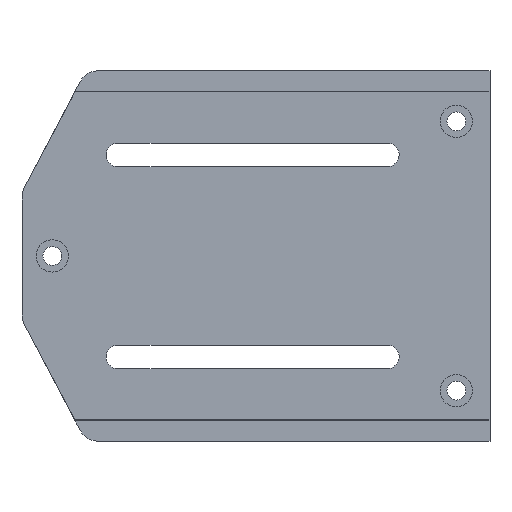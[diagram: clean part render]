
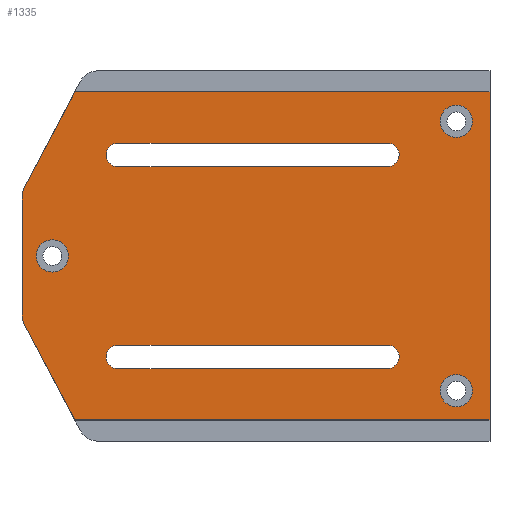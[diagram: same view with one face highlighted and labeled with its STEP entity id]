
A CAD part, top view. The second image highlights one B-rep face of the part: STEP entity #1335.
In plain terms, the highlighted planar face has unit normal (0, 0, 1).
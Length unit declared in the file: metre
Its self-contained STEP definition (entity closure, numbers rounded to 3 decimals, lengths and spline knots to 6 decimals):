
#44=CIRCLE('',#1428,0.00175);
#45=CIRCLE('',#1429,0.00175);
#46=CIRCLE('',#1430,0.0024);
#47=CIRCLE('',#1431,0.0024);
#48=CIRCLE('',#1432,0.0024);
#49=CIRCLE('',#1433,0.003);
#50=CIRCLE('',#1434,0.003);
#51=CIRCLE('',#1435,0.00175);
#52=CIRCLE('',#1436,0.00175);
#88=ORIENTED_EDGE('',*,*,#472,.T.);
#89=ORIENTED_EDGE('',*,*,#473,.F.);
#90=ORIENTED_EDGE('',*,*,#474,.F.);
#91=ORIENTED_EDGE('',*,*,#475,.F.);
#92=ORIENTED_EDGE('',*,*,#476,.T.);
#93=ORIENTED_EDGE('',*,*,#477,.T.);
#94=ORIENTED_EDGE('',*,*,#478,.T.);
#95=ORIENTED_EDGE('',*,*,#479,.T.);
#96=ORIENTED_EDGE('',*,*,#480,.F.);
#97=ORIENTED_EDGE('',*,*,#481,.T.);
#98=ORIENTED_EDGE('',*,*,#482,.T.);
#99=ORIENTED_EDGE('',*,*,#483,.T.);
#100=ORIENTED_EDGE('',*,*,#484,.T.);
#101=ORIENTED_EDGE('',*,*,#485,.T.);
#102=ORIENTED_EDGE('',*,*,#486,.T.);
#103=ORIENTED_EDGE('',*,*,#487,.T.);
#104=ORIENTED_EDGE('',*,*,#488,.F.);
#105=ORIENTED_EDGE('',*,*,#489,.F.);
#106=ORIENTED_EDGE('',*,*,#490,.F.);
#472=EDGE_CURVE('',#664,#665,#794,.T.);
#473=EDGE_CURVE('',#666,#665,#44,.T.);
#474=EDGE_CURVE('',#667,#666,#795,.T.);
#475=EDGE_CURVE('',#664,#667,#45,.T.);
#476=EDGE_CURVE('',#668,#668,#46,.T.);
#477=EDGE_CURVE('',#669,#669,#47,.T.);
#478=EDGE_CURVE('',#670,#670,#48,.T.);
#479=EDGE_CURVE('',#671,#672,#796,.T.);
#480=EDGE_CURVE('',#673,#672,#797,.T.);
#481=EDGE_CURVE('',#673,#674,#798,.T.);
#482=EDGE_CURVE('',#674,#675,#799,.T.);
#483=EDGE_CURVE('',#675,#676,#49,.F.);
#484=EDGE_CURVE('',#676,#677,#800,.T.);
#485=EDGE_CURVE('',#677,#678,#50,.F.);
#486=EDGE_CURVE('',#678,#671,#801,.T.);
#487=EDGE_CURVE('',#679,#680,#802,.T.);
#488=EDGE_CURVE('',#681,#680,#51,.T.);
#489=EDGE_CURVE('',#682,#681,#803,.T.);
#490=EDGE_CURVE('',#679,#682,#52,.T.);
#664=VERTEX_POINT('',#1939);
#665=VERTEX_POINT('',#1940);
#666=VERTEX_POINT('',#1942);
#667=VERTEX_POINT('',#1944);
#668=VERTEX_POINT('',#1947);
#669=VERTEX_POINT('',#1949);
#670=VERTEX_POINT('',#1951);
#671=VERTEX_POINT('',#1953);
#672=VERTEX_POINT('',#1954);
#673=VERTEX_POINT('',#1956);
#674=VERTEX_POINT('',#1958);
#675=VERTEX_POINT('',#1960);
#676=VERTEX_POINT('',#1962);
#677=VERTEX_POINT('',#1964);
#678=VERTEX_POINT('',#1966);
#679=VERTEX_POINT('',#1969);
#680=VERTEX_POINT('',#1970);
#681=VERTEX_POINT('',#1972);
#682=VERTEX_POINT('',#1974);
#794=LINE('',#1938,#932);
#795=LINE('',#1943,#933);
#796=LINE('',#1952,#934);
#797=LINE('',#1955,#935);
#798=LINE('',#1957,#936);
#799=LINE('',#1959,#937);
#800=LINE('',#1963,#938);
#801=LINE('',#1967,#939);
#802=LINE('',#1968,#940);
#803=LINE('',#1973,#941);
#932=VECTOR('',#1554,1.);
#933=VECTOR('',#1557,1.);
#934=VECTOR('',#1566,1.);
#935=VECTOR('',#1567,1.);
#936=VECTOR('',#1568,1.);
#937=VECTOR('',#1569,1.);
#938=VECTOR('',#1572,1.);
#939=VECTOR('',#1575,1.);
#940=VECTOR('',#1576,1.);
#941=VECTOR('',#1579,1.);
#1070=EDGE_LOOP('',(#88,#89,#90,#91));
#1071=EDGE_LOOP('',(#92));
#1072=EDGE_LOOP('',(#93));
#1073=EDGE_LOOP('',(#94));
#1074=EDGE_LOOP('',(#95,#96,#97,#98,#99,#100,#101,#102));
#1075=EDGE_LOOP('',(#103,#104,#105,#106));
#1174=FACE_BOUND('',#1070,.T.);
#1175=FACE_BOUND('',#1071,.T.);
#1176=FACE_BOUND('',#1072,.T.);
#1177=FACE_BOUND('',#1073,.T.);
#1178=FACE_BOUND('',#1074,.T.);
#1179=FACE_BOUND('',#1075,.T.);
#1278=PLANE('',#1427);
#1335=ADVANCED_FACE('',(#1174,#1175,#1176,#1177,#1178,#1179),#1278,.F.);
#1427=AXIS2_PLACEMENT_3D('',#1937,#1552,#1553);
#1428=AXIS2_PLACEMENT_3D('',#1941,#1555,#1556);
#1429=AXIS2_PLACEMENT_3D('',#1945,#1558,#1559);
#1430=AXIS2_PLACEMENT_3D('',#1946,#1560,#1561);
#1431=AXIS2_PLACEMENT_3D('',#1948,#1562,#1563);
#1432=AXIS2_PLACEMENT_3D('',#1950,#1564,#1565);
#1433=AXIS2_PLACEMENT_3D('',#1961,#1570,#1571);
#1434=AXIS2_PLACEMENT_3D('',#1965,#1573,#1574);
#1435=AXIS2_PLACEMENT_3D('',#1971,#1577,#1578);
#1436=AXIS2_PLACEMENT_3D('',#1975,#1580,#1581);
#1552=DIRECTION('',(0.,0.,-1.));
#1553=DIRECTION('',(-1.,0.,0.));
#1554=DIRECTION('',(1.,0.,0.));
#1555=DIRECTION('',(0.,0.,1.));
#1556=DIRECTION('',(1.,0.,0.));
#1557=DIRECTION('',(1.,0.,0.));
#1558=DIRECTION('',(0.,0.,1.));
#1559=DIRECTION('',(1.,0.,0.));
#1560=DIRECTION('',(0.,0.,-1.));
#1561=DIRECTION('',(-1.,0.,0.));
#1562=DIRECTION('',(0.,0.,-1.));
#1563=DIRECTION('',(-1.,0.,0.));
#1564=DIRECTION('',(0.,0.,-1.));
#1565=DIRECTION('',(-1.,0.,0.));
#1566=DIRECTION('',(1.,0.,0.));
#1567=DIRECTION('',(0.,-1.,0.));
#1568=DIRECTION('',(-1.,0.,0.));
#1569=DIRECTION('',(-0.467,-0.884,0.));
#1570=DIRECTION('',(0.,0.,-1.));
#1571=DIRECTION('',(-1.,0.,0.));
#1572=DIRECTION('',(0.,-1.,0.));
#1573=DIRECTION('',(0.,0.,-1.));
#1574=DIRECTION('',(-1.,0.,0.));
#1575=DIRECTION('',(0.467,-0.884,0.));
#1576=DIRECTION('',(1.,0.,0.));
#1577=DIRECTION('',(0.,0.,1.));
#1578=DIRECTION('',(1.,0.,0.));
#1579=DIRECTION('',(1.,0.,0.));
#1580=DIRECTION('',(0.,0.,1.));
#1581=DIRECTION('',(1.,0.,0.));
#1937=CARTESIAN_POINT('',(0.193318,-0.02,0.0049));
#1938=CARTESIAN_POINT('',(-0.03025,-0.03325,0.0049));
#1939=CARTESIAN_POINT('',(-0.05025,-0.03325,0.0049));
#1940=CARTESIAN_POINT('',(-0.01025,-0.03325,0.0049));
#1941=CARTESIAN_POINT('',(-0.01025,-0.035,0.0049));
#1942=CARTESIAN_POINT('',(-0.01025,-0.03675,0.0049));
#1943=CARTESIAN_POINT('',(-0.03025,-0.03675,0.0049));
#1944=CARTESIAN_POINT('',(-0.05025,-0.03675,0.0049));
#1945=CARTESIAN_POINT('',(-0.05025,-0.035,0.0049));
#1946=CARTESIAN_POINT('',(0.,0.,0.0049));
#1947=CARTESIAN_POINT('',(-0.0024,0.,0.0049));
#1948=CARTESIAN_POINT('',(0.,-0.04,0.0049));
#1949=CARTESIAN_POINT('',(-0.0024,-0.04,0.0049));
#1950=CARTESIAN_POINT('',(-0.06,-0.02,0.0049));
#1951=CARTESIAN_POINT('',(-0.0624,-0.02,0.0049));
#1952=CARTESIAN_POINT('',(0.193318,-0.044351,0.0049));
#1953=CARTESIAN_POINT('',(-0.056662,-0.044351,0.0049));
#1954=CARTESIAN_POINT('',(0.005,-0.044351,0.0049));
#1955=CARTESIAN_POINT('',(0.005,-0.02,0.0049));
#1956=CARTESIAN_POINT('',(0.005,0.004351,0.0049));
#1957=CARTESIAN_POINT('',(0.193318,0.004351,0.0049));
#1958=CARTESIAN_POINT('',(-0.056662,0.004351,0.0049));
#1959=CARTESIAN_POINT('',(-0.05975,-0.0015,0.0049));
#1960=CARTESIAN_POINT('',(-0.064153,-0.009843,0.0049));
#1961=CARTESIAN_POINT('',(-0.0615,-0.011243,0.0049));
#1962=CARTESIAN_POINT('',(-0.0645,-0.011243,0.0049));
#1963=CARTESIAN_POINT('',(-0.0645,-0.02,0.0049));
#1964=CARTESIAN_POINT('',(-0.0645,-0.028757,0.0049));
#1965=CARTESIAN_POINT('',(-0.0615,-0.028757,0.0049));
#1966=CARTESIAN_POINT('',(-0.064153,-0.030157,0.0049));
#1967=CARTESIAN_POINT('',(-0.05975,-0.0385,0.0049));
#1968=CARTESIAN_POINT('',(-0.03025,-0.00325,0.0049));
#1969=CARTESIAN_POINT('',(-0.05025,-0.00325,0.0049));
#1970=CARTESIAN_POINT('',(-0.01025,-0.00325,0.0049));
#1971=CARTESIAN_POINT('',(-0.01025,-0.005,0.0049));
#1972=CARTESIAN_POINT('',(-0.01025,-0.00675,0.0049));
#1973=CARTESIAN_POINT('',(-0.03025,-0.00675,0.0049));
#1974=CARTESIAN_POINT('',(-0.05025,-0.00675,0.0049));
#1975=CARTESIAN_POINT('',(-0.05025,-0.005,0.0049));
